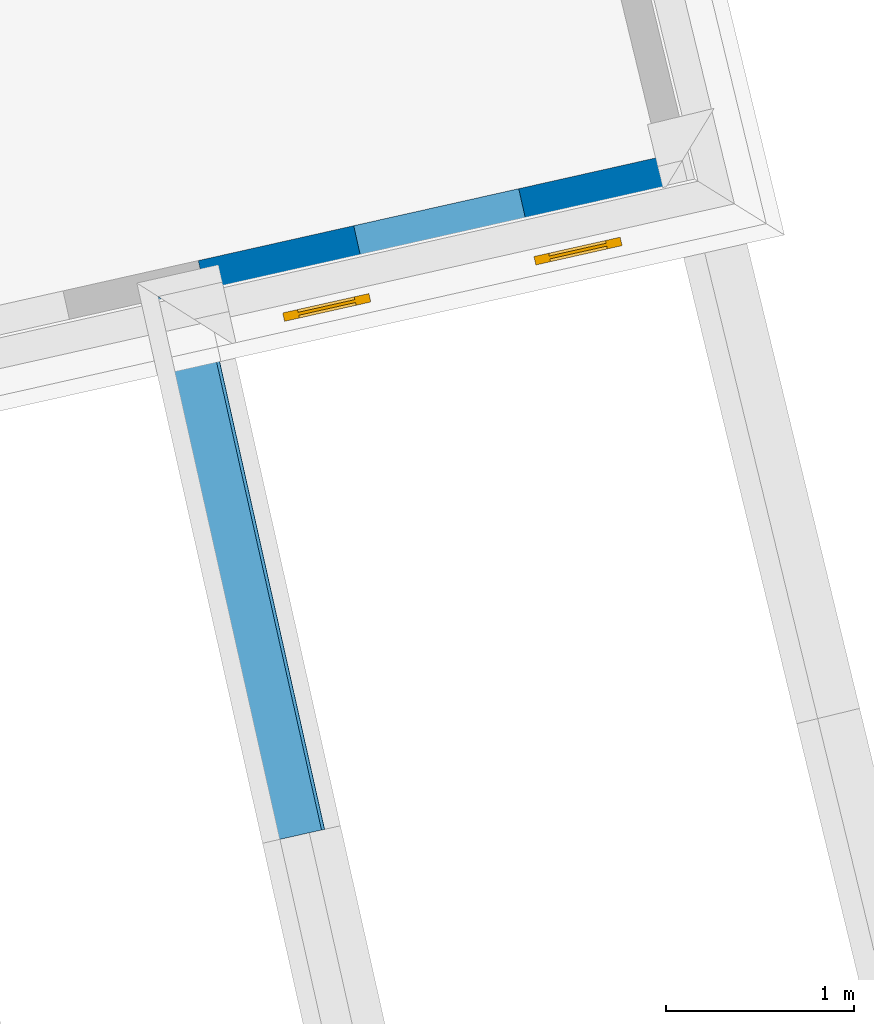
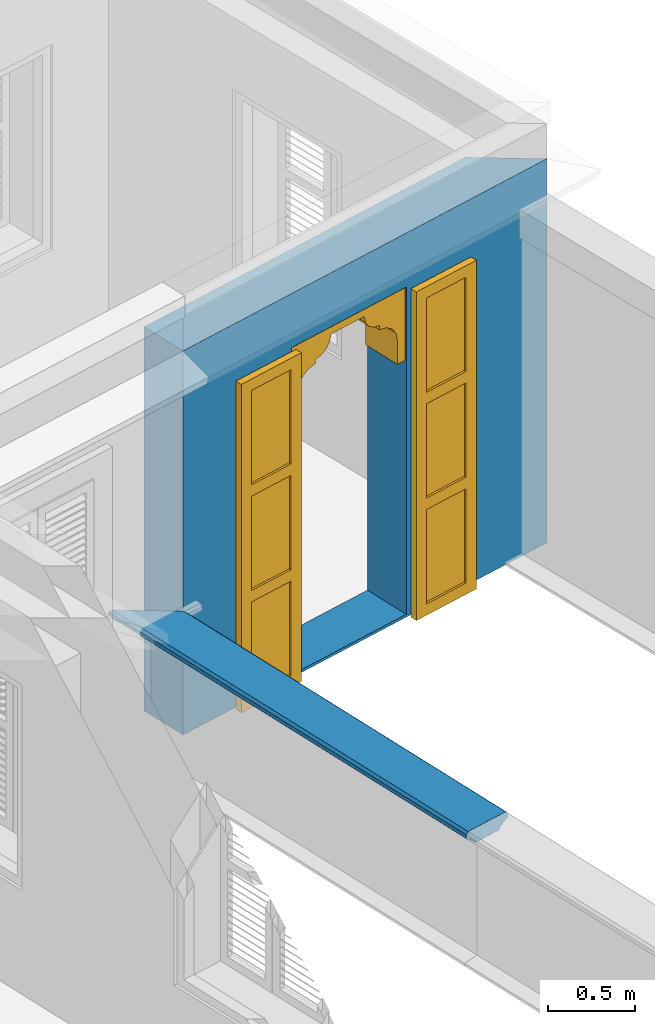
# One storey, part 10 of 15: 2 walls, 1 door, 1 opening.
"""IFC4 building model written with IfcOpenShell, lengths in metres."""

from ifc_helpers import new_model, si_unit, frame, origin, origin_with_axes, place, context, subcontext, project, spatial, polyline, outline, extrude, clip, halfspace, faceted_brep, source, transform, mapped, material, layer, layer_set, layer_usage, material_profile, profile_set, profile_usage, type_object, type_shapes, element, fill, save


model = new_model("IFC4")

# Units and contexts
model_context = context("Model", 3, world=origin_with_axes())
body_context = subcontext(model_context, "Body", "Model", "MODEL_VIEW")
ifc_project = project(units=[si_unit("PLANEANGLEUNIT", "RADIAN"), si_unit("MASSUNIT", "GRAM", prefix="KILO"), si_unit("FORCEUNIT", "NEWTON", prefix="KILO"), si_unit("LENGTHUNIT", "METRE"), si_unit("AREAUNIT", "SQUARE_METRE"), si_unit("VOLUMEUNIT", "CUBIC_METRE")], contexts=[model_context, model_context])

# Site, building, storey
site_placement = place(None, origin_with_axes())
site = spatial("IfcSite", under=ifc_project, at=site_placement, Name="Site plot-10", CompositionType="ELEMENT")
building_placement = place(None, origin_with_axes())
building = spatial("IfcBuilding", under=site, at=building_placement, Name="Building plot-10", CompositionType="ELEMENT")
storey_placement = place(None, frame((0.0, 0.0, 2.7), z_axis=(0.0, 0.0, 1.0), x_axis=(1.0, 0.0, 0.0)))
storey = spatial("IfcBuildingStorey", under=building, at=storey_placement, Name="plot-10 1", CompositionType="ELEMENT", Elevation=2.7)

# Wall, opening, door
ifc_material = material(Name="Masonry")
ifc_layer = layer(ifc_material, 0.33, ventilated=False)
ifc_layer_set = layer_set([ifc_layer], Name="exterior_0.08_0.25")
ifc_layer_usage = layer_usage(ifc_layer_set, "AXIS2", "POSITIVE", -0.25)
wall_type_1 = type_object("IfcWallType", Name="exterior_0.08_0.25", PredefinedType="SOLIDWALL", material=ifc_layer_set)
wall_1_placement = place(storey_placement, frame((-19.2193938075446, 17.7002126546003, 0.0), z_axis=(0.0, 0.0, 1.0), x_axis=(0.975741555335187, 0.218925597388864, 0.0)))
wall_1 = element("IfcWall", 1, at=wall_1_placement, inside=storey, type_object=wall_type_1, material=ifc_layer_usage, Name="exterior", context=body_context, shape_type="SweptSolid", body=[
    extrude(outline(polyline([(-1.06091551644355e-15, 0.0799999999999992), (-9.83892637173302e-16, -0.250000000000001), (2.84939882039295, -0.250000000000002), (2.51367335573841, 0.0799999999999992), (-1.06091551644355e-15, 0.0799999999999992)])), origin_with_axes(), (0.0, 0.0, 1.0), 2.7),
])
opening_placement = place(wall_1_placement, frame((0.847530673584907, 0.0, 0.02)))
opening = element("IfcOpeningElement", 2, at=opening_placement, cuts=wall_1, Name="My Opening", ObjectType="Opening", context=body_context, shape_type="SweptSolid", body=[
    extrude(outline(polyline([(0.0, -0.270000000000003), (0.899999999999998, -0.27), (0.899999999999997, 1.1), (-6.66133814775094e-16, 1.1), (0.0, -0.270000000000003)])), origin_with_axes(), (0.0, 0.0, 1.0), 2.3),
])
door_type = type_object("IfcDoorType", Name="arch-900x2300", OperationType="SINGLE_SWING_LEFT", PredefinedType="NOTDEFINED")
shared_shape = source(origin(), body_context, "Body", "Brep", [
    faceted_brep([(-0.08, -0.02, 0.08), (-0.08, -0.02, 0.0), (-0.39, -0.02, 0.0), (-0.39, -0.02, 0.08), (-0.47, -0.02, 0.0), (-0.47, -0.02, 0.08), (-0.39, -0.035, 0.08), (-0.08, -0.035, 0.08), (0.0, -0.02, 0.08), (0.0, -0.02, 0.0), (-0.08, -0.066, 0.0), (-0.39, -0.066, 0.0), (-0.47, -0.066, 0.0), (-0.47, -0.066, 0.08), (-0.39, -0.02, 0.743333), (-0.47, -0.02, 0.743333), (-0.39, -0.035, 0.743333), (-0.08, -0.035, 0.743333), (-0.08, -0.02, 0.743333), (0.0, -0.02, 0.743333), (0.0, -0.066, 0.08), (0.0, -0.066, 0.0), (-0.39, -0.066, 0.08), (-0.08, -0.066, 0.08), (-0.47, -0.066, 0.743333), (-0.39, -0.02, 0.823333), (-0.47, -0.02, 0.823333), (0.0, -0.066, 0.743333), (0.0, -0.02, 0.823333), (-0.08, -0.02, 0.823333), (-0.08, -0.051, 0.08), (-0.39, -0.051, 0.08), (-0.39, -0.066, 0.743333), (-0.47, -0.066, 0.823333), (-0.39, -0.02, 1.486667), (-0.47, -0.02, 1.486667), (0.0, -0.066, 0.823333), (-0.08, -0.066, 0.743333), (0.0, -0.02, 1.486667), (-0.08, -0.02, 1.486667), (-0.08, -0.051, 0.743333), (-0.39, -0.051, 0.743333), (-0.39, -0.066, 0.823333), (-0.47, -0.066, 1.486667), (-0.39, -0.035, 0.823333), (-0.08, -0.035, 0.823333), (-0.39, -0.035, 1.486667), (-0.39, -0.02, 1.566667), (-0.47, -0.02, 1.566667), (0.0, -0.066, 1.486667), (-0.08, -0.066, 0.823333), (-0.08, -0.035, 1.486667), (0.0, -0.02, 1.566667), (-0.08, -0.02, 1.566667), (-0.39, -0.066, 1.486667), (-0.47, -0.066, 1.566667), (-0.39, -0.02, 2.23), (-0.47, -0.02, 2.23), (0.0, -0.066, 1.566667), (-0.08, -0.066, 1.486667), (0.0, -0.02, 2.23), (-0.08, -0.02, 2.23), (-0.08, -0.051, 0.823333), (-0.39, -0.051, 0.823333), (-0.39, -0.051, 1.486667), (-0.39, -0.066, 1.566667), (-0.47, -0.066, 2.23), (-0.39, -0.035, 1.566667), (-0.08, -0.035, 1.566667), (-0.39, -0.035, 2.23), (-0.39, -0.02, 2.31), (-0.47, -0.02, 2.31), (0.0, -0.066, 2.23), (-0.08, -0.066, 1.566667), (-0.08, -0.051, 1.486667), (-0.08, -0.035, 2.23), (0.0, -0.02, 2.31), (-0.08, -0.02, 2.31), (-0.39, -0.066, 2.23), (-0.47, -0.066, 2.31), (-0.39, -0.066, 2.31), (0.0, -0.066, 2.31), (-0.08, -0.066, 2.23), (-0.08, -0.066, 2.31), (-0.08, -0.051, 1.566667), (-0.39, -0.051, 1.566667), (-0.39, -0.051, 2.23), (-0.08, -0.051, 2.23), (1.29, -0.02, 0.08), (1.29, -0.02, 0.0), (0.98, -0.02, 0.0), (0.98, -0.02, 0.08), (1.37, -0.02, 0.08), (1.37, -0.02, 0.0), (0.98, -0.035, 0.08), (1.29, -0.035, 0.08), (0.9, -0.02, 0.0), (0.9, -0.02, 0.08), (1.29, -0.066, 0.0), (0.98, -0.066, 0.0), (1.37, -0.066, 0.08), (1.37, -0.066, 0.0), (1.37, -0.02, 0.743333), (1.29, -0.02, 0.743333), (1.29, -0.035, 0.743333), (0.98, -0.035, 0.743333), (0.98, -0.02, 0.743333), (0.9, -0.02, 0.743333), (0.9, -0.066, 0.0), (0.9, -0.066, 0.08), (0.98, -0.066, 0.08), (1.29, -0.066, 0.08), (1.37, -0.066, 0.743333), (1.37, -0.02, 0.823333), (1.29, -0.02, 0.823333), (0.9, -0.066, 0.743333), (0.98, -0.02, 0.823333), (0.9, -0.02, 0.823333), (1.29, -0.051, 0.08), (0.98, -0.051, 0.08), (1.29, -0.066, 0.743333), (1.37, -0.066, 0.823333), (1.37, -0.02, 1.486667), (1.29, -0.02, 1.486667), (0.9, -0.066, 0.823333), (0.98, -0.066, 0.743333), (0.98, -0.02, 1.486667), (0.9, -0.02, 1.486667), (0.98, -0.051, 0.743333), (1.29, -0.051, 0.743333), (1.29, -0.066, 0.823333), (1.37, -0.066, 1.486667), (0.98, -0.035, 0.823333), (1.29, -0.035, 0.823333), (1.29, -0.035, 1.486667), (1.37, -0.02, 1.566667), (1.29, -0.02, 1.566667), (0.9, -0.066, 1.486667), (0.98, -0.066, 0.823333), (0.98, -0.035, 1.486667), (0.98, -0.02, 1.566667), (0.9, -0.02, 1.566667), (1.29, -0.066, 1.486667), (1.37, -0.066, 1.566667), (1.37, -0.02, 2.23), (1.29, -0.02, 2.23), (0.9, -0.066, 1.566667), (0.98, -0.066, 1.486667), (0.98, -0.02, 2.23), (0.9, -0.02, 2.23), (1.29, -0.051, 0.823333), (0.98, -0.051, 0.823333), (1.29, -0.051, 1.486667), (1.29, -0.066, 1.566667), (1.37, -0.066, 2.23), (0.98, -0.035, 1.566667), (1.29, -0.035, 1.566667), (1.29, -0.035, 2.23), (1.37, -0.02, 2.31), (1.29, -0.02, 2.31), (0.9, -0.066, 2.23), (0.98, -0.066, 1.566667), (0.98, -0.051, 1.486667), (0.98, -0.035, 2.23), (0.98, -0.02, 2.31), (0.9, -0.02, 2.31), (1.29, -0.066, 2.23), (1.37, -0.066, 2.31), (1.29, -0.066, 2.31), (0.9, -0.066, 2.31), (0.98, -0.066, 2.23), (0.98, -0.066, 2.31), (1.29, -0.051, 1.566667), (0.98, -0.051, 1.566667), (1.29, -0.051, 2.23), (0.98, -0.051, 2.23), (0.9, 0.03, 1.78), (0.9, 0.03, 1.95), (0.84, 0.03, 1.95), (0.84, 0.03, 1.78), (0.84, 0.3, 1.95), (0.84, 0.3, 1.78), (0.9, 0.03, 2.12), (0.829, 0.03, 2.004), (0.9, 0.3, 1.78), (0.9, 0.3, 1.95), (0.829, 0.3, 2.004), (0.799, 0.03, 2.049), (0.9, 0.3, 2.12), (0.799, 0.3, 2.049), (0.754, 0.03, 2.079), (0.9, 0.3, 2.29), (0.9, 0.03, 2.29), (0.754, 0.3, 2.079), (0.7, 0.03, 2.09), (0.7, 0.03, 2.12), (0.654, 0.03, 2.129), (0.58, 0.3, 2.29), (0.58, 0.03, 2.29), (0.7, 0.3, 2.12), (0.654, 0.3, 2.129), (0.7, 0.3, 2.09), (0.615, 0.03, 2.155), (0.589, 0.3, 2.194), (0.58, 0.3, 2.24), (0.58, 0.03, 2.24), (0.589, 0.03, 2.194), (0.615, 0.3, 2.155), (0.06, 0.03, 1.78), (0.06, 0.03, 1.95), (0.0, 0.03, 1.95), (0.0, 0.03, 1.78), (0.06, 0.3, 1.78), (0.06, 0.3, 1.95), (0.071, 0.03, 2.004), (0.0, 0.03, 2.12), (0.0, 0.3, 1.95), (0.0, 0.3, 1.78), (0.071, 0.3, 2.004), (0.101, 0.03, 2.049), (0.0, 0.3, 2.12), (0.101, 0.3, 2.049), (0.146, 0.03, 2.079), (0.0, 0.03, 2.29), (0.0, 0.3, 2.29), (0.146, 0.3, 2.079), (0.2, 0.03, 2.12), (0.2, 0.03, 2.09), (0.246, 0.03, 2.129), (0.32, 0.03, 2.29), (0.32, 0.3, 2.29), (0.246, 0.3, 2.129), (0.2, 0.3, 2.12), (0.2, 0.3, 2.09), (0.285, 0.03, 2.155), (0.32, 0.3, 2.24), (0.311, 0.3, 2.194), (0.311, 0.03, 2.194), (0.32, 0.03, 2.24), (0.285, 0.3, 2.155)], [[[0, 1, 2, 3]], [[4, 5, 3, 2]], [[0, 3, 6, 7]], [[1, 0, 8, 9]], [[2, 1, 10, 11]], [[5, 4, 12, 13]], [[14, 3, 5, 15]], [[4, 2, 11, 12]], [[3, 14, 16, 6]], [[6, 16, 17, 7]], [[18, 0, 7, 17]], [[0, 18, 19, 8]], [[9, 8, 20, 21]], [[1, 9, 21, 10]], [[22, 11, 10, 23]], [[13, 12, 11, 22]], [[15, 5, 13, 24]], [[25, 14, 15, 26]], [[14, 18, 17, 16]], [[8, 19, 27, 20]], [[28, 19, 18, 29]], [[23, 10, 21, 20]], [[22, 23, 30, 31]], [[22, 32, 24, 13]], [[26, 15, 24, 33]], [[29, 18, 14, 25]], [[34, 25, 26, 35]], [[19, 28, 36, 27]], [[20, 27, 37, 23]], [[38, 28, 29, 39]], [[23, 37, 40, 30]], [[41, 31, 30, 40]], [[32, 22, 31, 41]], [[32, 42, 33, 24]], [[35, 26, 33, 43]], [[29, 25, 44, 45]], [[25, 34, 46, 44]], [[47, 34, 35, 48]], [[28, 38, 49, 36]], [[27, 36, 50, 37]], [[39, 29, 45, 51]], [[52, 38, 39, 53]], [[37, 32, 41, 40]], [[37, 50, 42, 32]], [[42, 54, 43, 33]], [[48, 35, 43, 55]], [[44, 46, 51, 45]], [[34, 39, 51, 46]], [[34, 47, 53, 39]], [[56, 47, 48, 57]], [[38, 52, 58, 49]], [[36, 49, 59, 50]], [[60, 52, 53, 61]], [[42, 50, 62, 63]], [[54, 42, 63, 64]], [[54, 65, 55, 43]], [[57, 48, 55, 66]], [[53, 47, 67, 68]], [[47, 56, 69, 67]], [[70, 56, 57, 71]], [[52, 60, 72, 58]], [[49, 58, 73, 59]], [[50, 59, 74, 62]], [[61, 53, 68, 75]], [[76, 60, 61, 77]], [[64, 63, 62, 74]], [[59, 54, 64, 74]], [[65, 54, 59, 73]], [[65, 78, 66, 55]], [[71, 57, 66, 79]], [[67, 69, 75, 68]], [[56, 61, 75, 69]], [[77, 61, 56, 70]], [[70, 71, 79, 80]], [[60, 76, 81, 72]], [[58, 72, 82, 73]], [[76, 77, 83, 81]], [[65, 73, 84, 85]], [[78, 65, 85, 86]], [[78, 80, 79, 66]], [[77, 70, 80, 83]], [[72, 81, 83, 82]], [[73, 82, 87, 84]], [[86, 85, 84, 87]], [[82, 78, 86, 87]], [[82, 83, 80, 78]], [[88, 89, 90, 91]], [[89, 88, 92, 93]], [[94, 95, 88, 91]], [[96, 97, 91, 90]], [[98, 99, 90, 89]], [[100, 101, 93, 92]], [[102, 92, 88, 103]], [[101, 98, 89, 93]], [[95, 104, 103, 88]], [[94, 105, 104, 95]], [[105, 94, 91, 106]], [[97, 107, 106, 91]], [[108, 109, 97, 96]], [[99, 108, 96, 90]], [[110, 99, 98, 111]], [[111, 98, 101, 100]], [[112, 100, 92, 102]], [[113, 102, 103, 114]], [[104, 105, 106, 103]], [[109, 115, 107, 97]], [[116, 106, 107, 117]], [[109, 108, 99, 110]], [[118, 119, 110, 111]], [[100, 112, 120, 111]], [[121, 112, 102, 113]], [[114, 103, 106, 116]], [[122, 113, 114, 123]], [[115, 124, 117, 107]], [[110, 125, 115, 109]], [[126, 116, 117, 127]], [[119, 128, 125, 110]], [[128, 119, 118, 129]], [[129, 118, 111, 120]], [[112, 121, 130, 120]], [[131, 121, 113, 122]], [[132, 133, 114, 116]], [[133, 134, 123, 114]], [[135, 122, 123, 136]], [[124, 137, 127, 117]], [[125, 138, 124, 115]], [[139, 132, 116, 126]], [[140, 126, 127, 141]], [[128, 129, 120, 125]], [[120, 130, 138, 125]], [[121, 131, 142, 130]], [[143, 131, 122, 135]], [[132, 139, 134, 133]], [[134, 139, 126, 123]], [[126, 140, 136, 123]], [[144, 135, 136, 145]], [[137, 146, 141, 127]], [[138, 147, 137, 124]], [[148, 140, 141, 149]], [[150, 151, 138, 130]], [[152, 150, 130, 142]], [[131, 143, 153, 142]], [[154, 143, 135, 144]], [[155, 156, 136, 140]], [[156, 157, 145, 136]], [[158, 144, 145, 159]], [[146, 160, 149, 141]], [[147, 161, 146, 137]], [[151, 162, 147, 138]], [[163, 155, 140, 148]], [[164, 148, 149, 165]], [[162, 151, 150, 152]], [[162, 152, 142, 147]], [[161, 147, 142, 153]], [[143, 154, 166, 153]], [[167, 154, 144, 158]], [[155, 163, 157, 156]], [[157, 163, 148, 145]], [[159, 145, 148, 164]], [[168, 167, 158, 159]], [[160, 169, 165, 149]], [[161, 170, 160, 146]], [[169, 171, 164, 165]], [[172, 173, 161, 153]], [[174, 172, 153, 166]], [[154, 167, 168, 166]], [[171, 168, 159, 164]], [[170, 171, 169, 160]], [[173, 175, 170, 161]], [[175, 173, 172, 174]], [[175, 174, 166, 170]], [[166, 168, 171, 170]], [[176, 177, 178, 179]], [[180, 181, 179, 178]], [[177, 182, 183, 178]], [[177, 176, 184, 185]], [[181, 184, 176, 179]], [[181, 180, 185, 184]], [[186, 180, 178, 183]], [[182, 187, 183]], [[182, 177, 185, 188]], [[180, 186, 188, 185]], [[189, 186, 183, 187]], [[182, 190, 187]], [[188, 191, 192, 182]], [[188, 186, 189]], [[193, 189, 187, 190]], [[194, 190, 182, 195]], [[182, 192, 196, 195]], [[192, 191, 197, 198]], [[199, 200, 191, 188]], [[188, 189, 193]], [[201, 193, 190, 194]], [[199, 201, 194, 195]], [[200, 199, 195, 196]], [[192, 202, 196]], [[191, 203, 204, 197]], [[192, 198, 205, 206]], [[207, 191, 200]], [[199, 188, 193, 201]], [[207, 200, 196, 202]], [[192, 206, 202]], [[204, 203, 206, 205]], [[203, 191, 207]], [[203, 207, 202, 206]], [[208, 209, 210, 211]], [[209, 208, 212, 213]], [[209, 214, 215, 210]], [[211, 210, 216, 217]], [[208, 211, 217, 212]], [[217, 216, 213, 212]], [[214, 209, 213, 218]], [[214, 219, 215]], [[220, 216, 210, 215]], [[216, 220, 218, 213]], [[219, 214, 218, 221]], [[219, 222, 215]], [[215, 223, 224, 220]], [[221, 218, 220]], [[222, 219, 221, 225]], [[226, 215, 222, 227]], [[226, 228, 223, 215]], [[229, 230, 224, 223]], [[220, 224, 231, 232]], [[225, 221, 220]], [[227, 222, 225, 233]], [[226, 227, 233, 232]], [[228, 226, 232, 231]], [[228, 234, 223]], [[230, 235, 236, 224]], [[237, 238, 229, 223]], [[231, 224, 239]], [[233, 225, 220, 232]], [[234, 228, 231, 239]], [[234, 237, 223]], [[238, 237, 236, 235]], [[239, 224, 236]], [[237, 234, 239, 236]], [[238, 235, 204, 205]], [[235, 230, 197, 204]], [[229, 238, 205, 198]], [[230, 229, 198, 197]]]),
])
type_shapes(door_type, [shared_shape])
door_placement = place(storey_placement, frame((-18.3333129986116, 17.6223085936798, 0.02), z_axis=(0.0, 0.0, 1.0), x_axis=(0.878167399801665, 0.19703303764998, 0.0)))
door = element("IfcDoor", 3, at=door_placement, inside=storey, type_object=door_type, Name="living sahn door", OverallHeight=2.3, OverallWidth=0.9, context=body_context, shape_type="MappedRepresentation", body=[
    mapped(shared_shape, transform((0.0, 0.0, 0.0), scale=1.0)),
])
fill(opening, door)

# Wall
ifc_material_profile = material_profile(None, outline(polyline([(0.265, 0.795), (0.268, 0.807), (0.274, 0.816), (0.283, 0.822), (0.295, 0.825), (0.295, 0.84), (0.305, 0.84), (0.317, 0.842), (0.326, 0.849), (0.333, 0.858), (0.335, 0.87), (0.333, 0.882), (0.326, 0.891), (0.317, 0.898), (0.305, 0.9), (0.035, 0.9), (0.023, 0.898), (0.014, 0.891), (0.007, 0.882), (0.005, 0.87), (0.007, 0.858), (0.014, 0.849), (0.023, 0.842), (0.035, 0.84), (0.045, 0.84), (0.045, 0.825), (0.057, 0.822), (0.066, 0.816), (0.072, 0.807), (0.075, 0.795), (0.265, 0.795)])))
ifc_profile_set = profile_set([ifc_material_profile])
ifc_profile_usage = profile_usage(ifc_profile_set)
wall_type_2 = type_object("IfcWallType", Name="parapet internal_1", PredefinedType="PARAPET", material=ifc_profile_set)
wall_2_placement = place(storey_placement, frame((-18.3393801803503, 13.7780314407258, 0.0), z_axis=(-0.218925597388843, 0.975741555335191, 0.0), x_axis=(-0.975741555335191, -0.218925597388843, 0.0)))
element("IfcWall", 4, at=wall_2_placement, inside=storey, type_object=wall_type_2, material=ifc_profile_usage, Name="parapet internal_1", context=body_context, shape_type="Clipping", body=[
    clip(clip(extrude(outline(polyline([(0.265, 0.795), (0.268, 0.807), (0.274, 0.816), (0.283, 0.822), (0.295, 0.825), (0.295, 0.84), (0.305, 0.84), (0.317, 0.842), (0.326, 0.849), (0.333, 0.858), (0.335, 0.87), (0.333, 0.882), (0.326, 0.891), (0.317, 0.898), (0.305, 0.9), (0.035, 0.9), (0.023, 0.898), (0.014, 0.891), (0.007, 0.882), (0.005, 0.87), (0.007, 0.858), (0.014, 0.849), (0.023, 0.842), (0.035, 0.84), (0.045, 0.84), (0.045, 0.825), (0.057, 0.822), (0.066, 0.816), (0.072, 0.807), (0.075, 0.795), (0.265, 0.795)])), origin_with_axes(), (0.0, 0.0, 1.0), 4.70969270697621), halfspace(frame((0.0, 0.0, 3.70969270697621), z_axis=(0.707106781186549, 0.0, -0.707106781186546), x_axis=(0.0, 1.0, 0.0)), True)), halfspace(frame((0.0, 0.0, 1.0), z_axis=(-6.12323399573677e-17, 0.0, -1.0), x_axis=(0.0, 1.0, 0.0)), False)),
])

save(model, "model.ifc")
